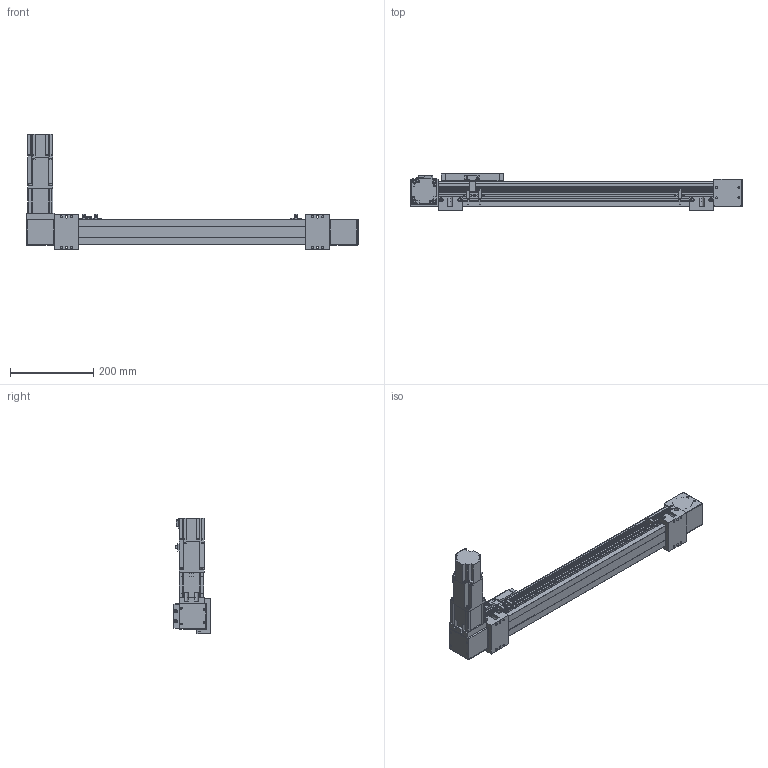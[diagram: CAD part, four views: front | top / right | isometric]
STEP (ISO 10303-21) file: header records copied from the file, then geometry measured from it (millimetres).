
FILE_DESCRIPTION(/* description */ ('STEP AP203'),/* implementation_level */ '2;1');
FILE_NAME(/* name */ 'SK60-P13-S500-BL-T40-C1-N(0)',/* time_stamp */ '2023-04-06T03:35:49+02:00',/* author */ ('License CC BY-ND 4.0'),/* organization */ ('CADENAS'),/* preprocessor_version */ 'ST-DEVELOPER v19.3',/* originating_system */ 'PARTsolutions',/* authorisation */ ' ');
FILE_SCHEMA (('CONFIG_CONTROL_DESIGN'));
Length unit declared in the file: millimetre
Products named in the file (11): SK60-P13-S500-BL-T40-C1-N(0); PSC140-sensor; SK60-S450_seat; SK60-S450-BL-C1_slider; SK60_body3; SK60_body6; SK60-BL_body2; T40-p1; SK60_body5; SK60_body4; SK60-S500-BL-C1_body
Assembly tree (17 placements, depth 2):
  SK60-P13-S500-BL-T40-C1-N(0)
    PSC140-sensor  x3
    SK60-S450_seat  x2
    SK60-S450-BL-C1_slider
    SK60_body3  x3
    SK60_body6  x2
    SK60-BL_body2  x2
    T40-p1
    SK60_body5
    SK60_body4
    SK60-S500-BL-C1_body
Bounding box: 800 x 90 x 278.2 mm (x, y, z)
Volume: 3359682.5 mm3; surface area: 501874.9 mm2
Topology: 17 solids, 21 shells, 834 faces, 2109 edges, 1394 vertices
Faces by surface type: plane 544, cylinder 266, cone 22, torus 2
Full cylindrical faces by diameter (mm): 2.8 x3, 3.3 x4, 4.2 x8, 4.5 x26, 4.6 x3, 4.917 x16, 5 x2, 5.478 x4, 5.5 x19, 6.5 x4, 8 x4, 8.5 x4, 9.988 x4, 10 x8, 13.556 x1, 14 x1, 14.586 x1, 19.692 x1, 38.432 x2, 43 x1, 44 x3, 47 x2, 50 x2
Entity records: 19371 total; most frequent: DIRECTION 3292, CARTESIAN_POINT 3289, ORIENTED_EDGE 3050, EDGE_CURVE 1525, AXIS2_PLACEMENT_3D 1100, LINE 1092, VECTOR 1092, VERTEX_POINT 1077
